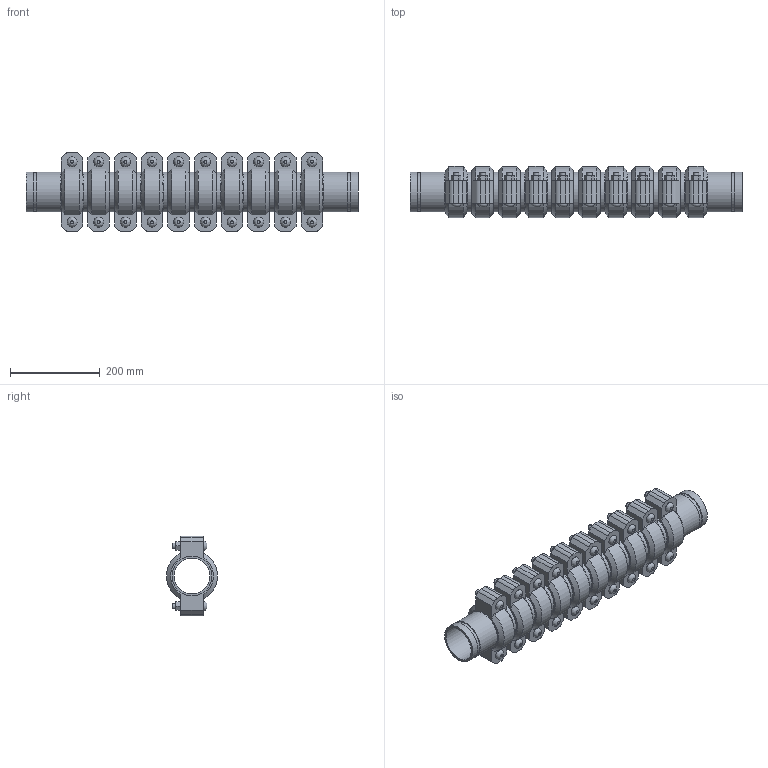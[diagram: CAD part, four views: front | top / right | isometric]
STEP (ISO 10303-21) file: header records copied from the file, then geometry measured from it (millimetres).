
FILE_DESCRIPTION(/* description */ ('VIC SS EXPANSION JOINT 10 COUPLINGS NEUTRAL STYLE 155P (OGS) (POTABLE WATER) ','CAx-IF Rec.Pracs.---Representation and Presentation of Product Manufacturing Information (PMI)---4.0---2014-10-13'),/* implementation_level */ '2;1');
FILE_NAME(/* name */ 'C:\Users\kkamble\AppData\Roaming\Autodesk\ApplicationPlugins\Victaulic.Temp\A116\Victaulic_SS_Expansion Joint_Neutral_10 Couplings_Style 155P (OGS)-Potable Water_10 Coup_Neut_3 (80).stp',/* time_stamp */ '2021-07-16T16:27:09+06:00',/* author */ ('kkamble'),/* organization */ ('Victaulic'),/* preprocessor_version */ 'ST-DEVELOPER v17.2',/* originating_system */ 'Autodesk Inventor 2019',/* authorisation */ '');
FILE_SCHEMA (('AP242_MANAGED_MODEL_BASED_3D_ENGINEERING_MIM_LF { 1 0 10303 442 1 1 4 }'));
Length unit declared in the file: inch
Products named in the file (4): 155P-03.0; Nipple-03.0; Nipple-03.0_1; 075-03.0
Assembly tree (21 placements, depth 2):
  155P-03.0
    Nipple-03.0  x2
    Nipple-03.0_1  x9
    075-03.0  x10
Bounding box: 741.43 x 113.88 x 177.8 mm (x, y, z)
Volume: 4146209.4 mm3; surface area: 1038881.2 mm2
Topology: 21 solids, 41 shells, 702 faces, 1660 edges, 1164 vertices
Faces by surface type: plane 426, cylinder 216, cone 40, bspline 20
Full cylindrical faces by diameter (mm): 12.7 x40, 14.605 x20, 79.35 x11, 82.55 x10, 84.938 x22, 88.9 x53
Entity records: 2881 total; most frequent: CARTESIAN_POINT 505, DIRECTION 485, ORIENTED_EDGE 386, AXIS2_PLACEMENT_3D 196, EDGE_CURVE 193, VERTEX_POINT 138, EDGE_LOOP 107, LINE 93
